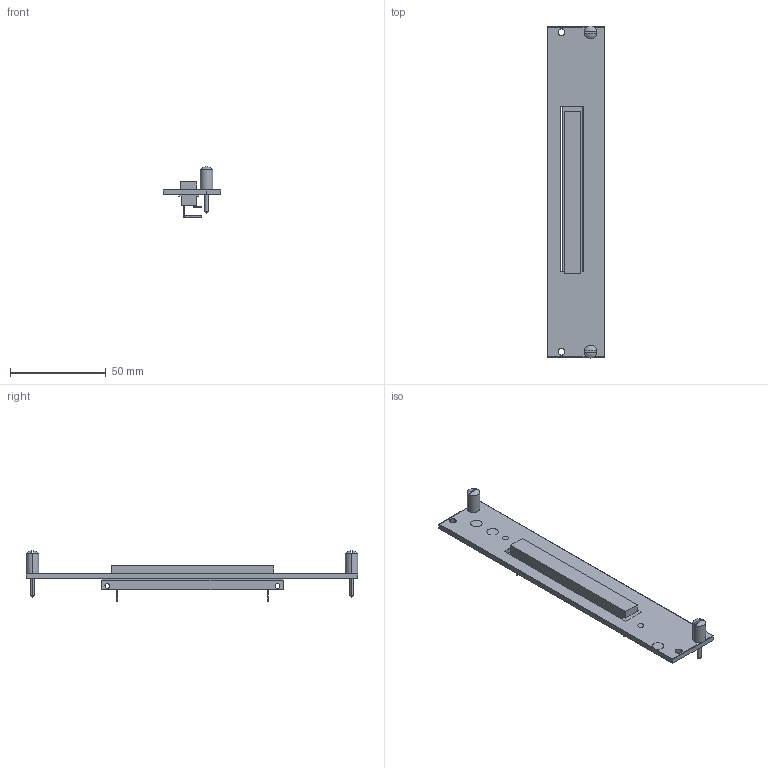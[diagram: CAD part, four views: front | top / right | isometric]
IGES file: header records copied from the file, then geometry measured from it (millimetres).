
Start section:  PTC IGES file: cu_scxi-1163r.igs
Global section: file name: cu_scxi-1163r.igs; native system: Pro/ENGINEER by Parametric Technology Corporation; preprocessor: 2006080; author: jjorden; organization: Unknown; date: 091207.134038; units: inch
Bounding box: 30.18 x 173.51 x 26.23 mm (x, y, z)
Surface area: 15519.4 mm2 (no closed solid volume)
Topology: 0 solids, 0 shells, 135 faces, 708 edges, 704 vertices
Faces by surface type: revolution 74, bspline 61
